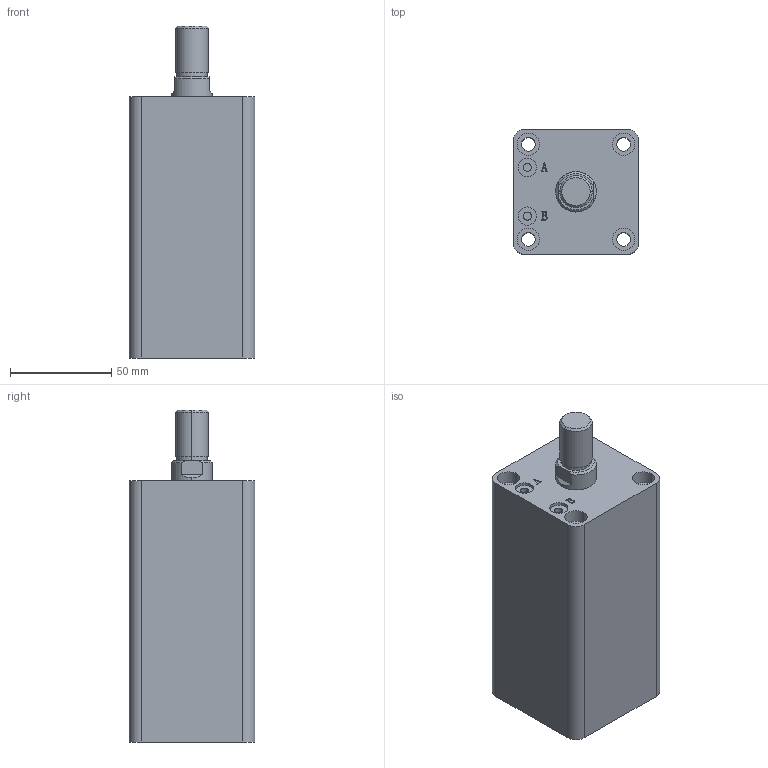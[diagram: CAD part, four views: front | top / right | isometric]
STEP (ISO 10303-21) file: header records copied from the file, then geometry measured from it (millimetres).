
FILE_DESCRIPTION (( 'STEP AP203' ), '1' );
FILE_NAME ('HTB-SDMA32-75W.STEP', '2019-10-07T11:44:04', ( '微软用户' ), ( '微软中国' ), 'SwSTEP 2.0', 'SolidWorks 2012', '' );
FILE_SCHEMA (( 'CONFIG_CONTROL_DESIGN' ));
Length unit declared in the file: millimetre
Products named in the file (3): HTB-SDMA32-75W; HTB-SDMA32-75W活塞杆; HTB-SDMA32-75掛极
Assembly tree (2 placements, depth 2):
  HTB-SDMA32-75W
    HTB-SDMA32-75掛极
    HTB-SDMA32-75W活塞杆
Bounding box: 62 x 62 x 164 mm (x, y, z)
Volume: 440776.4 mm3; surface area: 73640 mm2
Topology: 2 solids, 2 shells, 141 faces, 337 edges, 222 vertices
Faces by surface type: plane 67, cylinder 48, bspline 16, torus 6, cone 4
Entity records: 5176 total; most frequent: CARTESIAN_POINT 1593, ORIENTED_EDGE 674, DIRECTION 669, EDGE_CURVE 337, AXIS2_PLACEMENT_3D 242, VERTEX_POINT 222, VECTOR 185, LINE 185
